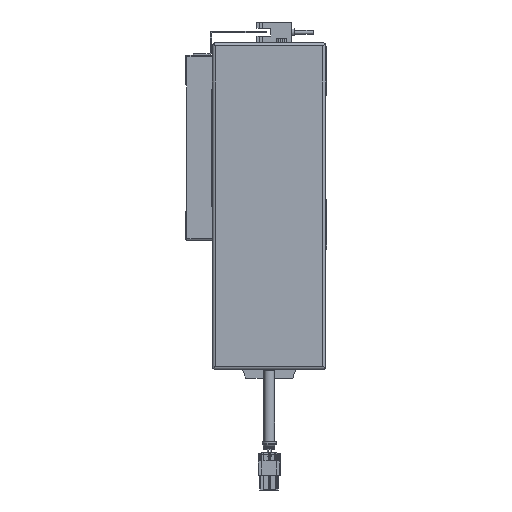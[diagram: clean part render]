
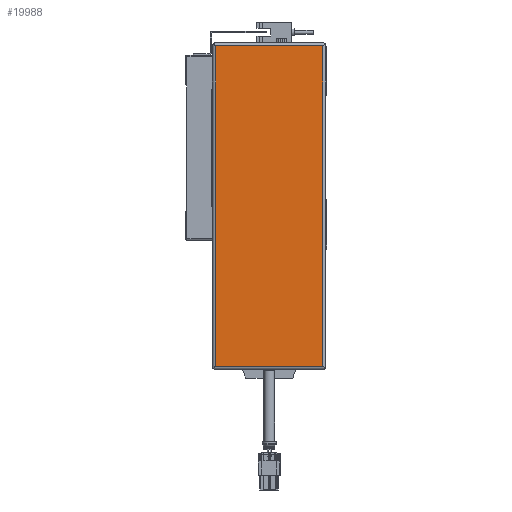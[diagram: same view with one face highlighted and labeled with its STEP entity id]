
A CAD part, left-side view. The second image highlights one B-rep face of the part: STEP entity #19988.
In plain terms, the highlighted planar face has unit normal (-1, 0, 0).
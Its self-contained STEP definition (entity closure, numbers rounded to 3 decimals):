
#4758=ORIENTED_EDGE('',*,*,#8468,.F.);
#4759=ORIENTED_EDGE('',*,*,#8469,.F.);
#4760=ORIENTED_EDGE('',*,*,#8470,.T.);
#4761=ORIENTED_EDGE('',*,*,#8471,.T.);
#8468=EDGE_CURVE('',#10667,#10668,#12786,.T.);
#8469=EDGE_CURVE('',#10669,#10667,#12787,.T.);
#8470=EDGE_CURVE('',#10669,#10670,#12788,.T.);
#8471=EDGE_CURVE('',#10670,#10668,#12789,.T.);
#10667=VERTEX_POINT('',#31914);
#10668=VERTEX_POINT('',#31915);
#10669=VERTEX_POINT('',#31917);
#10670=VERTEX_POINT('',#31919);
#12786=LINE('',#31913,#14883);
#12787=LINE('',#31916,#14884);
#12788=LINE('',#31918,#14885);
#12789=LINE('',#31920,#14886);
#14883=VECTOR('',#25993,1000.);
#14884=VECTOR('',#25994,1000.);
#14885=VECTOR('',#25995,1000.);
#14886=VECTOR('',#25996,1000.);
#16451=EDGE_LOOP('',(#4758,#4759,#4760,#4761));
#17910=FACE_BOUND('',#16451,.T.);
#19000=PLANE('',#21608);
#19988=ADVANCED_FACE('',(#17910),#19000,.F.);
#21608=AXIS2_PLACEMENT_3D('',#31912,#25991,#25992);
#25991=DIRECTION('',(1.,0.,0.));
#25992=DIRECTION('',(0.,0.,-1.));
#25993=DIRECTION('',(0.,0.,-1.));
#25994=DIRECTION('',(0.,-1.,0.));
#25995=DIRECTION('',(0.,0.,-1.));
#25996=DIRECTION('',(0.,-1.,0.));
#31912=CARTESIAN_POINT('',(-52.,2.,34.5));
#31913=CARTESIAN_POINT('',(-52.,2.,36.5));
#31914=CARTESIAN_POINT('',(-52.,2.,34.5));
#31915=CARTESIAN_POINT('',(-52.,2.,-34.5));
#31916=CARTESIAN_POINT('',(-52.,210.,34.5));
#31917=CARTESIAN_POINT('',(-52.,208.,34.5));
#31918=CARTESIAN_POINT('',(-52.,208.,36.5));
#31919=CARTESIAN_POINT('',(-52.,208.,-34.5));
#31920=CARTESIAN_POINT('',(-52.,210.,-34.5));
